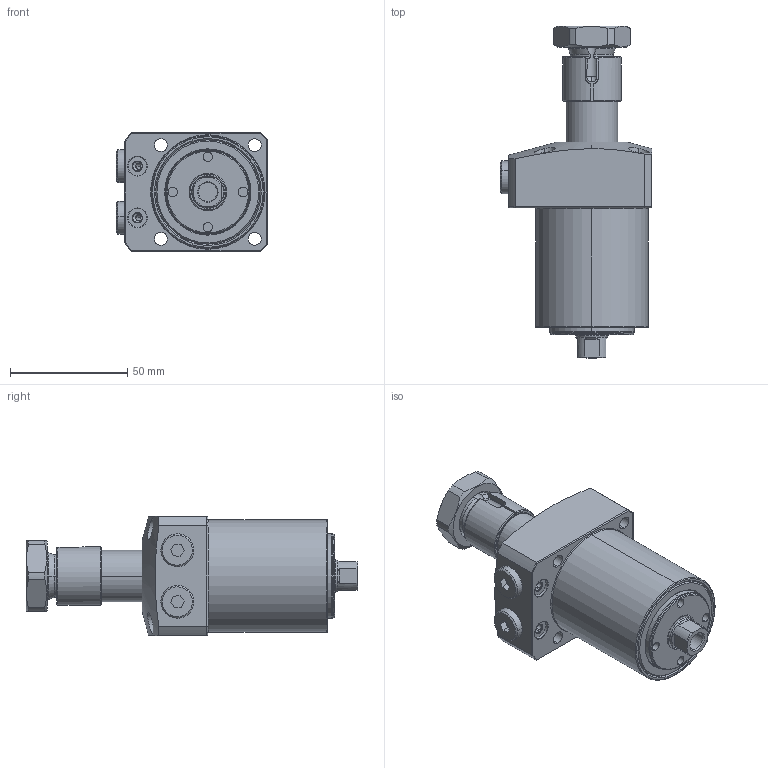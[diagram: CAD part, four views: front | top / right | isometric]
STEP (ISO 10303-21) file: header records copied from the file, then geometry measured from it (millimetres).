
FILE_DESCRIPTION(/* description */ (''),/* implementation_level */ '2;1');
FILE_NAME(/* name */ 'KTRC48-RD.stp',/* time_stamp */ '2022-11-18T07:51:36+08:00',/* author */ (''),/* organization */ (''),/* preprocessor_version */ 'ST-DEVELOPER v16.7',/* originating_system */ 'SIEMENS PLM Software NX 12.0',/* authorisation */ '');
FILE_SCHEMA (('AP203_CONFIGURATION_CONTROLLED_3D_DESIGN_OF_MECHANICAL_PARTS_AND_ASSEMBLIES_MIM_LF { 1 0 10303 403 2 1 2}'));
Length unit declared in the file: millimetre
Products named in the file (8): KTRC48-RD-03; KTRC48-RD-02; KTRC48-RD-04; KTRC48-RD-01; KTRC48-RD-07; KTRC48-RD-05; KTRC48-RD-06; LHA0480-CLD_step
Assembly tree (8 placements, depth 2):
  LHA0480-CLD_step
    KTRC48-RD-06
    KTRC48-RD-05
    KTRC48-RD-07  x2
    KTRC48-RD-01
    KTRC48-RD-04
    KTRC48-RD-02
    KTRC48-RD-03
Bounding box: 64.5 x 141.5 x 51 mm (x, y, z)
Volume: 198020.4 mm3; surface area: 38464 mm2
Topology: 8 solids, 8 shells, 289 faces, 703 edges, 444 vertices
Faces by surface type: cylinder 111, plane 91, cone 61, torus 24, sphere 2
Entity records: 9886 total; most frequent: CARTESIAN_POINT 2441, DIRECTION 1397, ORIENTED_EDGE 1342, EDGE_CURVE 671, AXIS2_PLACEMENT_3D 571, VERTEX_POINT 426, EDGE_LOOP 315, CIRCLE 286
